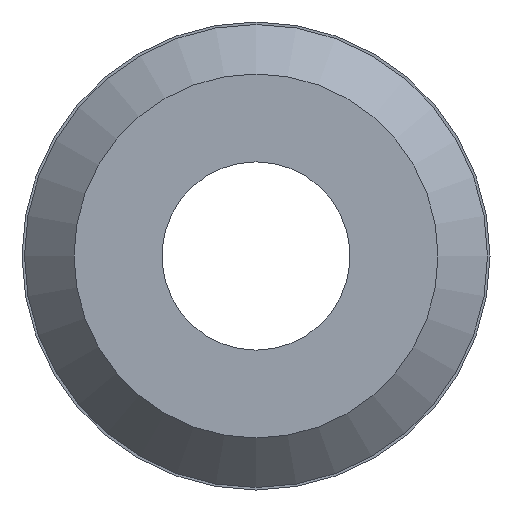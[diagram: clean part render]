
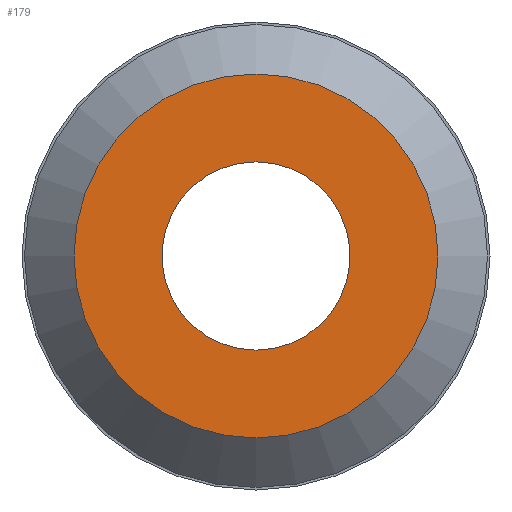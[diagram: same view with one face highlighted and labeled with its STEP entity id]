
A CAD part, front view. The second image highlights one B-rep face of the part: STEP entity #179.
In plain terms, the highlighted planar face has unit normal (0, -1, 0).
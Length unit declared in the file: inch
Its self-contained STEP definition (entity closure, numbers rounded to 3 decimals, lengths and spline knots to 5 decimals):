
#16=FACE_BOUND('',#41,.T.);
#20=PLANE('',#208);
#30=FACE_OUTER_BOUND('',#40,.T.);
#40=EDGE_LOOP('',(#137));
#41=EDGE_LOOP('',(#138,#139));
#62=CIRCLE('',#202,0.0735);
#67=CIRCLE('',#209,0.038);
#68=CIRCLE('',#210,0.038);
#82=VERTEX_POINT('',#300);
#87=VERTEX_POINT('',#314);
#88=VERTEX_POINT('',#315);
#101=EDGE_CURVE('',#82,#82,#62,.T.);
#108=EDGE_CURVE('',#87,#88,#67,.T.);
#109=EDGE_CURVE('',#88,#87,#68,.T.);
#137=ORIENTED_EDGE('',*,*,#101,.F.);
#138=ORIENTED_EDGE('',*,*,#108,.F.);
#139=ORIENTED_EDGE('',*,*,#109,.F.);
#179=ADVANCED_FACE('',(#30,#16),#20,.T.);
#202=AXIS2_PLACEMENT_3D('',#301,#235,#236);
#208=AXIS2_PLACEMENT_3D('',#313,#249,#250);
#209=AXIS2_PLACEMENT_3D('',#316,#251,#252);
#210=AXIS2_PLACEMENT_3D('',#317,#253,#254);
#235=DIRECTION('center_axis',(0.,1.,0.));
#236=DIRECTION('ref_axis',(0.,0.,1.));
#249=DIRECTION('center_axis',(0.,-1.,0.));
#250=DIRECTION('ref_axis',(0.,0.,-1.));
#251=DIRECTION('center_axis',(0.,-1.,0.));
#252=DIRECTION('ref_axis',(1.,0.,0.));
#253=DIRECTION('center_axis',(0.,-1.,0.));
#254=DIRECTION('ref_axis',(1.,0.,0.));
#300=CARTESIAN_POINT('',(0.,0.,-0.0735));
#301=CARTESIAN_POINT('Origin',(0.,0.,0.));
#313=CARTESIAN_POINT('Origin',(0.,0.,-0.038));
#314=CARTESIAN_POINT('',(0.,0.,-0.038));
#315=CARTESIAN_POINT('',(0.,0.,0.038));
#316=CARTESIAN_POINT('Origin',(0.,0.,0.));
#317=CARTESIAN_POINT('Origin',(0.,0.,0.));
